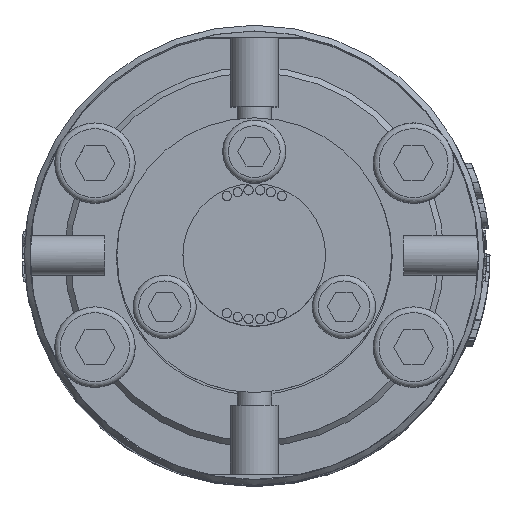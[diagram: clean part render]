
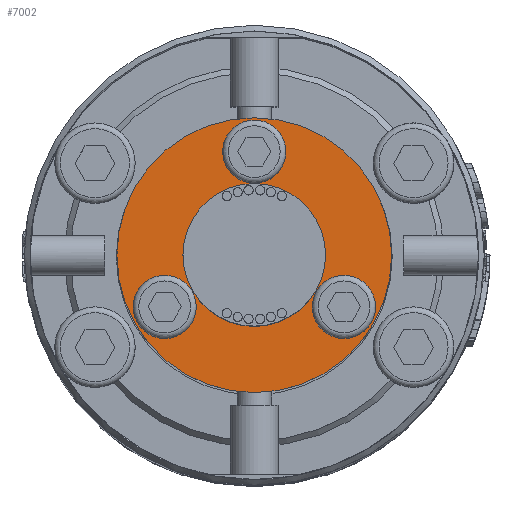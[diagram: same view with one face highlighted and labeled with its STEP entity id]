
A CAD part, top view. The second image highlights one B-rep face of the part: STEP entity #7002.
In plain terms, the highlighted planar face has unit normal (0, 0, 1).
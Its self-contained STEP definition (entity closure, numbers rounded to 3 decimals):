
#4065=PLANE('',#29309);
#7002=ADVANCED_FACE('',(#10967,#10968,#10969,#10970,#10971),#4065,.T.);
#10967=FACE_BOUND('',#12817,.T.);
#10968=FACE_BOUND('',#12818,.T.);
#10969=FACE_BOUND('',#12819,.T.);
#10970=FACE_BOUND('',#12820,.T.);
#10971=FACE_BOUND('',#12821,.T.);
#12817=EDGE_LOOP('',(#20825));
#12818=EDGE_LOOP('',(#20826));
#12819=EDGE_LOOP('',(#20827));
#12820=EDGE_LOOP('',(#20828));
#12821=EDGE_LOOP('',(#20829));
#20825=ORIENTED_EDGE('',*,*,#27733,.F.);
#20826=ORIENTED_EDGE('',*,*,#27734,.F.);
#20827=ORIENTED_EDGE('',*,*,#27735,.F.);
#20828=ORIENTED_EDGE('',*,*,#27732,.F.);
#20829=ORIENTED_EDGE('',*,*,#27736,.F.);
#23704=VERTEX_POINT('',#58403);
#23705=VERTEX_POINT('',#58406);
#23706=VERTEX_POINT('',#58408);
#23707=VERTEX_POINT('',#58410);
#23708=VERTEX_POINT('',#58412);
#27732=EDGE_CURVE('',#23704,#23704,#28103,.T.);
#27733=EDGE_CURVE('',#23705,#23705,#28104,.T.);
#27734=EDGE_CURVE('',#23706,#23706,#28105,.T.);
#27735=EDGE_CURVE('',#23707,#23707,#28106,.T.);
#27736=EDGE_CURVE('',#23708,#23708,#28107,.T.);
#28103=CIRCLE('',#29303,6.2);
#28104=CIRCLE('',#29305,2.75);
#28105=CIRCLE('',#29306,2.75);
#28106=CIRCLE('',#29307,2.75);
#28107=CIRCLE('',#29308,11.95);
#29303=AXIS2_PLACEMENT_3D('',#58402,#33253,#33254);
#29305=AXIS2_PLACEMENT_3D('',#58405,#33257,#33258);
#29306=AXIS2_PLACEMENT_3D('',#58407,#33259,#33260);
#29307=AXIS2_PLACEMENT_3D('',#58409,#33261,#33262);
#29308=AXIS2_PLACEMENT_3D('',#58411,#33263,#33264);
#29309=AXIS2_PLACEMENT_3D('',#58413,#33265,#33266);
#33253=DIRECTION('',(0.,0.,1.));
#33254=DIRECTION('',(0.,1.,0.));
#33257=DIRECTION('',(0.,0.,1.));
#33258=DIRECTION('',(1.,0.,0.));
#33259=DIRECTION('',(0.,0.,1.));
#33260=DIRECTION('',(-0.5,0.866,0.));
#33261=DIRECTION('',(0.,0.,1.));
#33262=DIRECTION('',(-0.5,-0.866,0.));
#33263=DIRECTION('',(0.,0.,-1.));
#33264=DIRECTION('',(0.,1.,0.));
#33265=DIRECTION('',(0.,0.,1.));
#33266=DIRECTION('',(0.,1.,0.));
#58402=CARTESIAN_POINT('',(0.,0.,95.5));
#58403=CARTESIAN_POINT('',(0.,6.2,95.5));
#58405=CARTESIAN_POINT('',(0.,9.,95.5));
#58406=CARTESIAN_POINT('',(2.75,9.,95.5));
#58407=CARTESIAN_POINT('',(-7.794,-4.5,95.5));
#58408=CARTESIAN_POINT('',(-9.169,-2.118,95.5));
#58409=CARTESIAN_POINT('',(7.794,-4.5,95.5));
#58410=CARTESIAN_POINT('',(6.419,-6.882,95.5));
#58411=CARTESIAN_POINT('',(0.,0.,95.5));
#58412=CARTESIAN_POINT('',(0.,11.95,95.5));
#58413=CARTESIAN_POINT('',(0.,0.,95.5));
